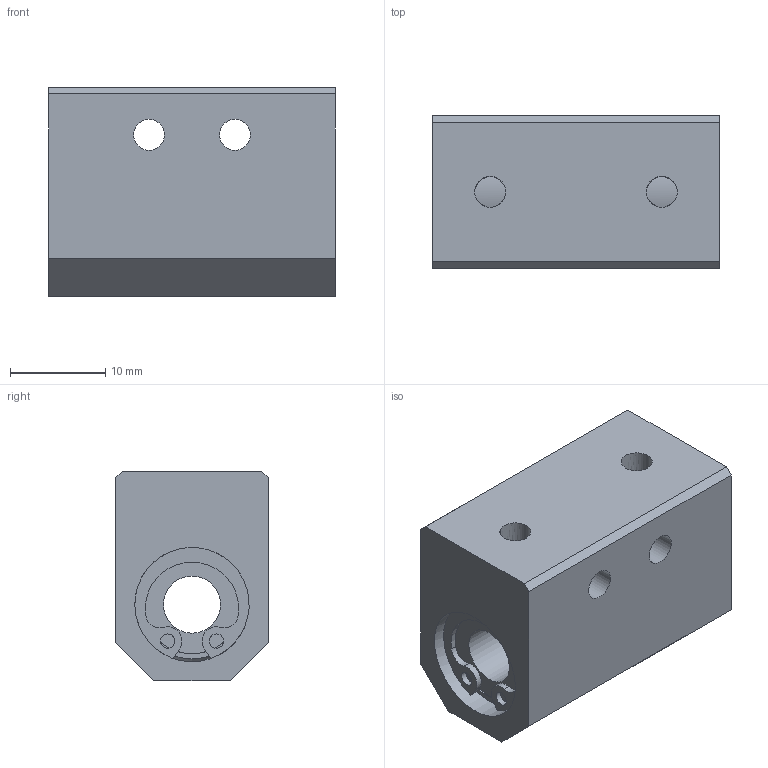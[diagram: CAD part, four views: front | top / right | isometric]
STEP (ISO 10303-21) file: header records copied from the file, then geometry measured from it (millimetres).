
FILE_DESCRIPTION((''),'2;1');
FILE_NAME('D:\製品 (図面)\カタログ用3D\メンテナンスフリー関連\STEP形式\CH-MF\CH6MF.stp','2010-06-01T15:26:46',('Tsuchiya'),(''),'Autodesk Inventor 10','Autodesk Inventor 10','');
FILE_SCHEMA(('AUTOMOTIVE_DESIGN { 1 0 10303 214 1 1 1 1 }'));
Length unit declared in the file: millimetre
Products named in the file (1): CH6MF
Bounding box: 30 x 16 x 22 mm (x, y, z)
Volume: 8300.6 mm3; surface area: 4307.8 mm2
Topology: 1 solids, 3 shells, 67 faces, 172 edges, 110 vertices
Faces by surface type: plane 27, bspline 22, cylinder 18
Full cylindrical faces by diameter (mm): 1.5 x2, 6 x1, 10.3 x2, 11.5 x2, 12 x4
Entity records: 2196 total; most frequent: CARTESIAN_POINT 702, DIRECTION 304, ORIENTED_EDGE 272, EDGE_CURVE 136, AXIS2_PLACEMENT_3D 124, EDGE_LOOP 110, VERTEX_POINT 96, CIRCLE 78
